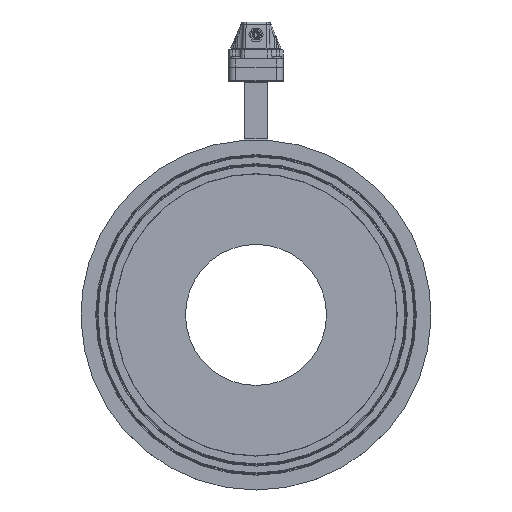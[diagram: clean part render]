
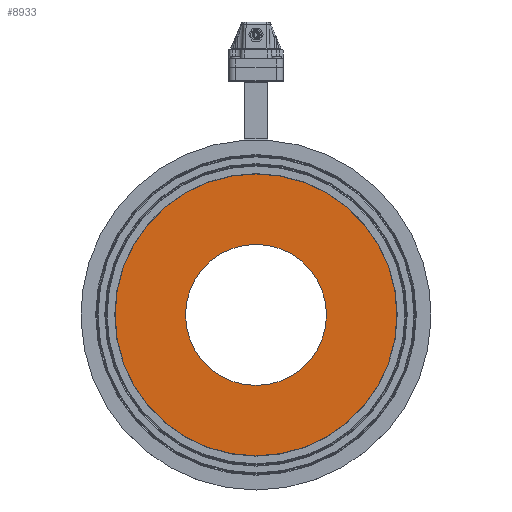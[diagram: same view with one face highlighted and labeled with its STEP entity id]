
A CAD part, top view. The second image highlights one B-rep face of the part: STEP entity #8933.
In plain terms, the highlighted planar face has unit normal (0, 0, 1).
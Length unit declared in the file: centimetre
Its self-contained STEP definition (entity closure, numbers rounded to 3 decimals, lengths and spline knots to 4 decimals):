
#2197=PLANE('',#9888);
#2830=VERTEX_POINT('',#38557);
#2850=VERTEX_POINT('',#38610);
#3364=CIRCLE('',#9760,7.75);
#3383=CIRCLE('',#9792,15.5);
#4460=EDGE_CURVE('',#2830,#2830,#3364,.T.);
#4480=EDGE_CURVE('',#2850,#2850,#3383,.T.);
#6920=ORIENTED_EDGE('',*,*,#4460,.T.);
#6921=ORIENTED_EDGE('',*,*,#4480,.F.);
#7649=EDGE_LOOP('',(#6920));
#7650=EDGE_LOOP('',(#6921));
#8363=FACE_BOUND('',#7649,.T.);
#8364=FACE_BOUND('',#7650,.T.);
#8933=ADVANCED_FACE('',(#8363,#8364),#2197,.F.);
#9760=AXIS2_PLACEMENT_3D('',#38556,#11757,#11758);
#9792=AXIS2_PLACEMENT_3D('',#38609,#11820,#11821);
#9888=AXIS2_PLACEMENT_3D('',#38955,#12051,$);
#11757=DIRECTION('',(0.,0.,-1.));
#11758=DIRECTION('',(-7.75,0.,0.));
#11820=DIRECTION('',(0.,0.,-1.));
#11821=DIRECTION('',(-15.5,0.,0.));
#12051=DIRECTION('',(0.,0.,-1.));
#38556=CARTESIAN_POINT('',(-0.5338,-33.7198,3.0385));
#38557=CARTESIAN_POINT('',(7.2162,-33.7198,3.0385));
#38609=CARTESIAN_POINT('',(-0.5338,-33.7198,3.0385));
#38610=CARTESIAN_POINT('',(-16.0338,-33.7198,3.0385));
#38955=CARTESIAN_POINT('',(-0.5338,-33.7198,3.0385));
